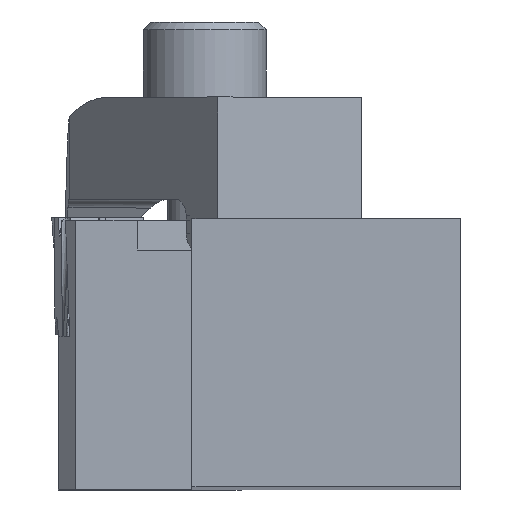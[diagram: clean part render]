
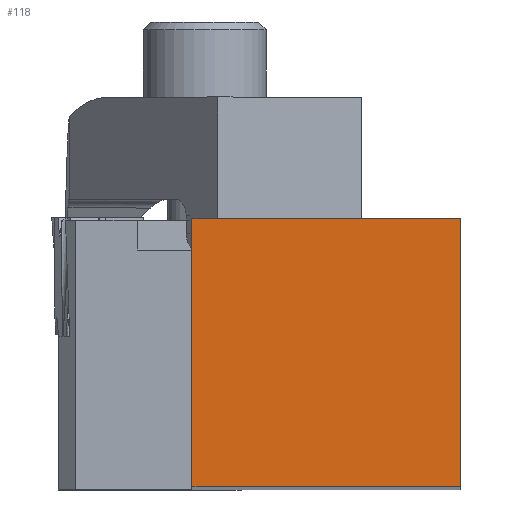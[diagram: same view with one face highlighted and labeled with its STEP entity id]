
A CAD part, top view. The second image highlights one B-rep face of the part: STEP entity #118.
In plain terms, the highlighted planar face has unit normal (0, 0, 1).
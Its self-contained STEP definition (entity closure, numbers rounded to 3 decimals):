
#118=ADVANCED_FACE('',(#267),#203,.F.);
#203=PLANE('',#1727);
#267=FACE_OUTER_BOUND('',#345,.T.);
#345=EDGE_LOOP('',(#482,#483,#484,#485));
#482=ORIENTED_EDGE('',*,*,#1039,.T.);
#483=ORIENTED_EDGE('',*,*,#1025,.F.);
#484=ORIENTED_EDGE('',*,*,#1061,.F.);
#485=ORIENTED_EDGE('',*,*,#1062,.T.);
#875=VERTEX_POINT('',#2297);
#876=VERTEX_POINT('',#2299);
#889=VERTEX_POINT('',#2329);
#900=VERTEX_POINT('',#2369);
#1025=EDGE_CURVE('',#875,#876,#1367,.T.);
#1039=EDGE_CURVE('',#889,#876,#1381,.T.);
#1061=EDGE_CURVE('',#900,#875,#1403,.T.);
#1062=EDGE_CURVE('',#900,#889,#1404,.T.);
#1367=LINE('',#2298,#1542);
#1381=LINE('',#2328,#1556);
#1403=LINE('',#2368,#1578);
#1404=LINE('',#2370,#1579);
#1542=VECTOR('',#1864,1.);
#1556=VECTOR('',#1884,1.);
#1578=VECTOR('',#1920,1.);
#1579=VECTOR('',#1921,1.);
#1727=AXIS2_PLACEMENT_3D('',#2371,#1922,#1923);
#1864=DIRECTION('',(0.,-1.,0.));
#1884=DIRECTION('',(1.,0.,0.));
#1920=DIRECTION('',(1.,0.,0.));
#1921=DIRECTION('',(0.,-1.,0.));
#1922=DIRECTION('',(0.,0.,-1.));
#1923=DIRECTION('',(-1.,0.,0.));
#2297=CARTESIAN_POINT('',(0.,12.51,0.));
#2298=CARTESIAN_POINT('',(0.,12.51,0.));
#2299=CARTESIAN_POINT('',(0.,0.,0.));
#2328=CARTESIAN_POINT('',(-12.51,0.,0.));
#2329=CARTESIAN_POINT('',(-12.51,0.,0.));
#2368=CARTESIAN_POINT('',(-12.51,12.51,0.));
#2369=CARTESIAN_POINT('',(-12.51,12.51,0.));
#2370=CARTESIAN_POINT('',(-12.51,12.51,0.));
#2371=CARTESIAN_POINT('',(-12.51,12.51,0.));
